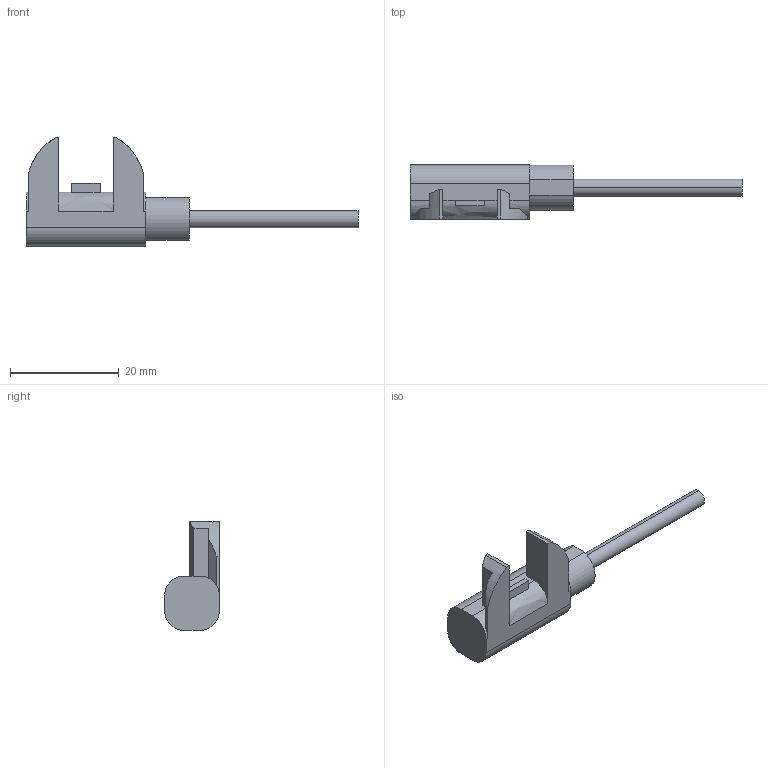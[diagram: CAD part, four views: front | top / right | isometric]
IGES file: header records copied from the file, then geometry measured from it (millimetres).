
Start section: SolidWorks IGES FILE using analytic representation for surfaces
Global section: file name: C:\Documents and Settings\yk0651\デスクトップ\3D_catalog_050929\0_IGES\FD-F705.IGS; native system: SolidWorks 2004 by SolidWorks Corporation; preprocessor: Version 5.3; author: yk0651; date: 051002.181634; units: millimetre
Bounding box: 61 x 10 x 20 mm (x, y, z)
Volume: 2968.3 mm3; surface area: 1845.3 mm2
Topology: 1 solids, 1 shells, 48 faces, 125 edges, 82 vertices
Faces by surface type: plane 36, revolution 12
